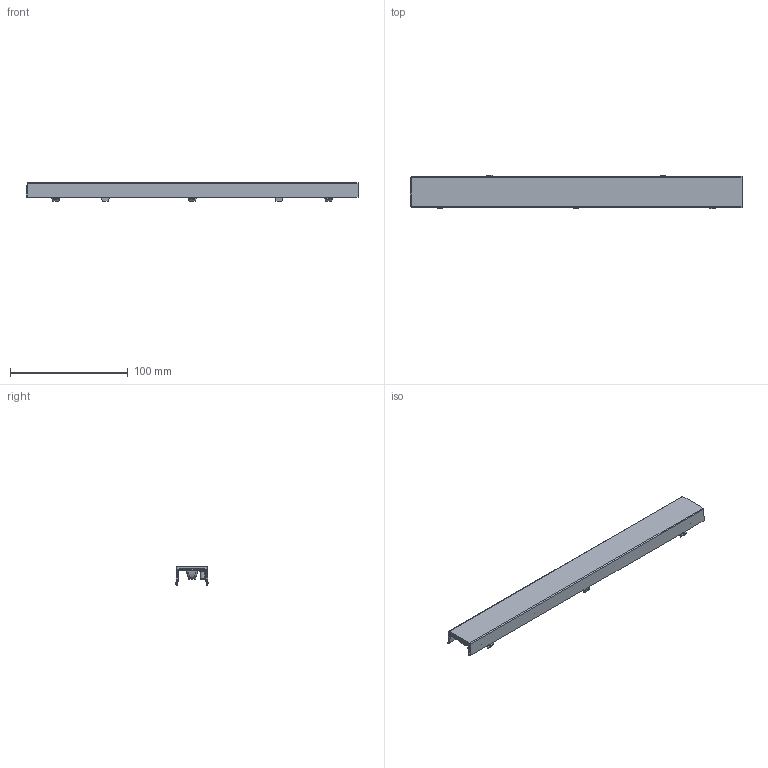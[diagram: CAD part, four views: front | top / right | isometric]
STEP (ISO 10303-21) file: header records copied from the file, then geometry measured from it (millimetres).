
FILE_DESCRIPTION((''),'2;1');
FILE_NAME('L26-3D','2023-03-23T',('Administrator'),(''),'PRO/ENGINEER BY PARAMETRIC TECHNOLOGY CORPORATION, 2007090','PRO/ENGINEER BY PARAMETRIC TECHNOLOGY CORPORATION, 2007090','');
FILE_SCHEMA(('CONFIG_CONTROL_DESIGN'));
Length unit declared in the file: millimetre
Products named in the file (1): L26-3D
Bounding box: 282.08 x 28.59 x 15.93 mm (x, y, z)
Volume: 36551.5 mm3; surface area: 32449 mm2
Topology: 1 solids, 1 shells, 636 faces, 1813 edges, 1178 vertices
Faces by surface type: plane 241, cylinder 122, bspline 107, extrusion 96, revolution 48, cone 22
Entity records: 31228 total; most frequent: CARTESIAN_POINT 17137, ORIENTED_EDGE 3530, DIRECTION 1792, EDGE_CURVE 1765, VERTEX_POINT 1178, B_SPLINE_CURVE_WITH_KNOTS 1098, VECTOR 840, LINE 744
